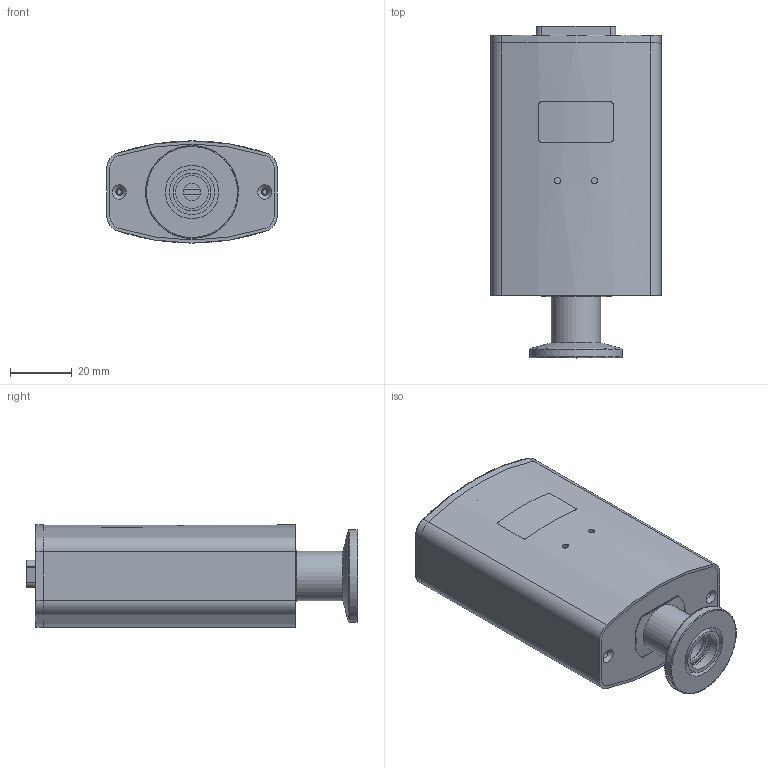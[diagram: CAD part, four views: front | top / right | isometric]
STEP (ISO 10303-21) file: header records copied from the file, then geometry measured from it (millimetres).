
FILE_DESCRIPTION (( 'STEP AP203' ), '1' );
FILE_NAME ('101-2yz湍珆尨.STEP', '2025-05-26T07:23:16', ( '' ), ( '' ), 'SwSTEP 2.0', 'SolidWorks 2021', '' );
FILE_SCHEMA (( 'CONFIG_CONTROL_DESIGN' ));
Length unit declared in the file: millimetre
Products named in the file (1): 101-2yz湍珆尨
Bounding box: 55 x 107.2 x 33 mm (x, y, z)
Volume: 53089 mm3; surface area: 58008.6 mm2
Topology: 21 solids, 21 shells, 649 faces, 1677 edges, 1102 vertices
Faces by surface type: plane 415, cylinder 209, cone 17, bspline 8
Full cylindrical faces by diameter (mm): 0.8 x15, 1 x15, 1.5 x2, 2 x2, 2.2 x2, 2.5 x3, 3 x4, 3.2 x2, 3.5 x1, 5.5 x1, 6 x1, 8.5 x1, 10.5 x2, 12.2 x2, 12.5 x1, 12.8 x1, 14.6 x1, 16 x1, 17.2 x1, 30 x1
Entity records: 20295 total; most frequent: CARTESIAN_POINT 4313, DIRECTION 3303, ORIENTED_EDGE 3198, EDGE_CURVE 1599, AXIS2_PLACEMENT_3D 1109, VERTEX_POINT 1090, LINE 1085, VECTOR 1085
